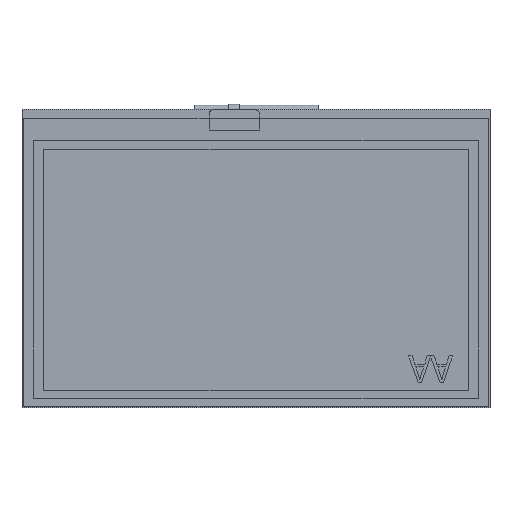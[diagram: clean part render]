
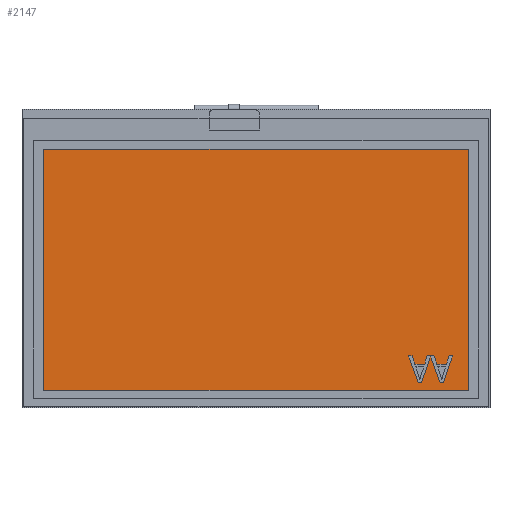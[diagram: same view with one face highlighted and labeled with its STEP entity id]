
A CAD part, top view. The second image highlights one B-rep face of the part: STEP entity #2147.
In plain terms, the highlighted planar face has unit normal (0, 0, 1).
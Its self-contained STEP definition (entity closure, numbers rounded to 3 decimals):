
#2147=ADVANCED_FACE('',(#2600),#2381,.T.);
#2381=PLANE('',#5942);
#2600=FACE_OUTER_BOUND('',#2847,.T.);
#2847=EDGE_LOOP('',(#3648,#3649,#3650,#3651));
#3648=ORIENTED_EDGE('',*,*,#4642,.T.);
#3649=ORIENTED_EDGE('',*,*,#4646,.T.);
#3650=ORIENTED_EDGE('',*,*,#4649,.T.);
#3651=ORIENTED_EDGE('',*,*,#4651,.T.);
#4180=VERTEX_POINT('',#7782);
#4181=VERTEX_POINT('',#7784);
#4183=VERTEX_POINT('',#7790);
#4185=VERTEX_POINT('',#7796);
#4642=EDGE_CURVE('',#4181,#4180,#5147,.T.);
#4646=EDGE_CURVE('',#4180,#4183,#5151,.T.);
#4649=EDGE_CURVE('',#4183,#4185,#5154,.T.);
#4651=EDGE_CURVE('',#4185,#4181,#5156,.T.);
#5147=LINE('',#7783,#5628);
#5151=LINE('',#7791,#5632);
#5154=LINE('',#7797,#5635);
#5156=LINE('',#7800,#5637);
#5628=VECTOR('',#6724,1.);
#5632=VECTOR('',#6730,1.);
#5635=VECTOR('',#6735,1.);
#5637=VECTOR('',#6739,1.);
#5942=AXIS2_PLACEMENT_3D('',#7802,#6742,#6743);
#6724=DIRECTION('',(0.,-1.,0.));
#6730=DIRECTION('',(1.,0.,0.));
#6735=DIRECTION('',(0.,1.,0.));
#6739=DIRECTION('',(-1.,0.,0.));
#6742=DIRECTION('',(0.,0.,1.));
#6743=DIRECTION('',(1.,0.,0.));
#7782=CARTESIAN_POINT('',(-35.49,-27.93,5.1));
#7783=CARTESIAN_POINT('',(-35.49,26.37,5.1));
#7784=CARTESIAN_POINT('',(-35.49,26.37,5.1));
#7790=CARTESIAN_POINT('',(60.11,-27.93,5.1));
#7791=CARTESIAN_POINT('',(-35.49,-27.93,5.1));
#7796=CARTESIAN_POINT('',(60.11,26.37,5.1));
#7797=CARTESIAN_POINT('',(60.11,-27.93,5.1));
#7800=CARTESIAN_POINT('',(60.11,26.37,5.1));
#7802=CARTESIAN_POINT('',(0.,0.,5.1));
